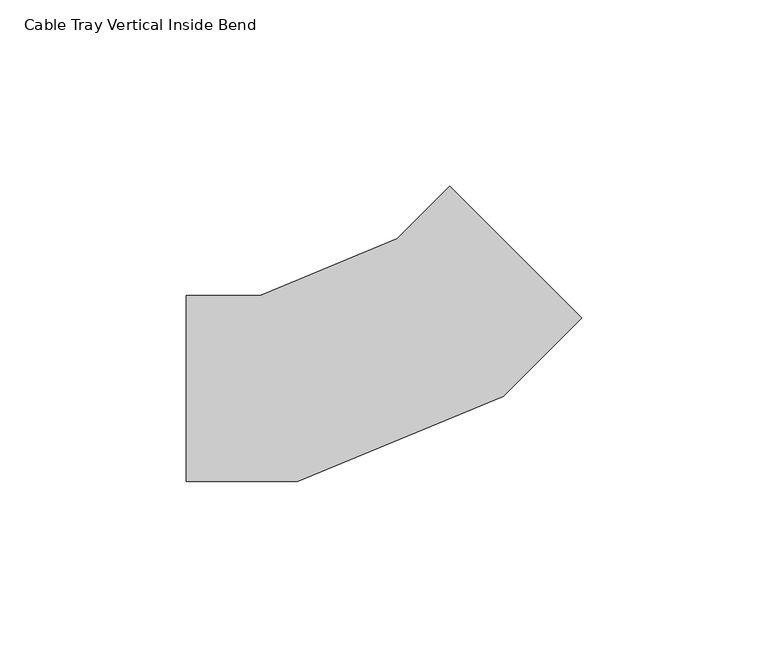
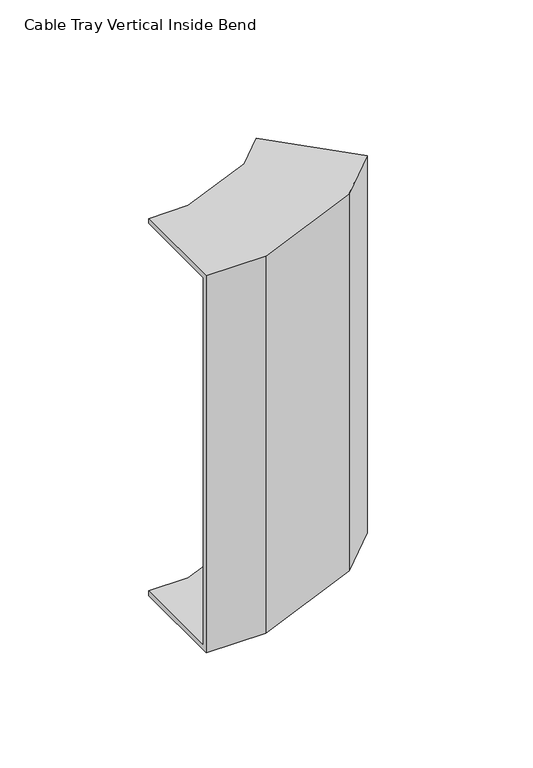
"""IFC4 building model written with IfcOpenShell, lengths in millimetres: cable carrier fitting geometry, Cable Tray Vertical Inside Bend : ELEC_SUB_CT_N2402."""

from ifc_helpers import new_model, si_unit, origin, place, context, project, spatial, faceted_brep, source, transform, mapped, element, save


def cable_tray_vertical_inside_bend_2483429f(model_context):
    return source(origin(), model_context, "Body", "Brep", [
        faceted_brep([(-51.7766953, 25.0, 100.0), (-51.7766953, 25.0, 97.46), (-51.7766953, -22.46, 97.46), (-51.7766953, -22.46, -97.46), (-51.7766953, 25.0, -97.46), (-51.7766953, 25.0, -100.0), (-51.7766953, -25.0, -100.0), (-51.7766953, -25.0, 100.0), (18.9339828, 54.2893219, 100.0), (54.2893219, 18.9339828, 100.0), (54.2893219, 18.9339828, -100.0), (18.9339828, 54.2893219, -100.0), (18.9339828, 54.2893219, -97.46), (52.4932707, 20.730034, -97.46), (52.4932707, 20.730034, 97.46), (18.9339828, 54.2893219, 97.46), (-31.8854586, 25.0, 100.0), (-31.8854586, 25.0, 97.46), (4.8687544, 40.2240935, 97.46), (31.7526849, -0.0105517, 97.46), (-22.4450776, -22.46, 97.46), (-22.4450776, -22.46, -97.46), (31.7526849, -0.0105517, -97.46), (4.8687544, 40.2240935, -97.46), (-31.8854586, 25.0, -97.46), (-31.8854586, 25.0, -100.0), (4.8687544, 40.2240935, -100.0), (33.1914793, -2.1638598, -100.0), (-21.9398402, -25.0, -100.0), (-21.9398402, -25.0, 100.0), (33.1914793, -2.1638598, 100.0), (4.8687544, 40.2240935, 100.0)], [[[0, 1, 2, 3, 4, 5, 6, 7]], [[8, 9, 10, 11, 12, 13, 14, 15]], [[1, 0, 16, 17]], [[2, 1, 17, 18, 15, 14, 19, 20]], [[3, 2, 20, 21]], [[4, 3, 21, 22, 13, 12, 23, 24]], [[5, 4, 24, 25]], [[6, 5, 25, 26, 11, 10, 27, 28]], [[7, 6, 28, 29]], [[0, 7, 29, 30, 9, 8, 31, 16]], [[17, 16, 31, 18]], [[21, 20, 19, 22]], [[25, 24, 23, 26]], [[29, 28, 27, 30]], [[18, 31, 8, 15]], [[22, 19, 14, 13]], [[26, 23, 12, 11]], [[30, 27, 10, 9]]]),
    ])


if __name__ == "__main__":
    model = new_model("IFC4")
    model_context = context("Model", 3, world=origin())
    ifc_project = project(units=[si_unit("LENGTHUNIT", "METRE", prefix="MILLI")], contexts=[model_context])
    site = spatial("IfcSite", under=ifc_project)
    building = spatial("IfcBuilding", under=site)
    placement = place(None, origin())
    cable_tray_vertical_inside_bend_shape = cable_tray_vertical_inside_bend_2483429f(model_context)
    element("IfcCableCarrierFitting", 1, ObjectType="Cable Tray Vertical Inside Bend : ELEC_SUB_CT_N2402", at=placement, inside=building, context=model_context, shape_type="MappedRepresentation", body=[
        mapped(cable_tray_vertical_inside_bend_shape, transform((0.0, 0.0, 0.0), x_axis=(1.0, 0.0, 0.0), y_axis=(0.0, 1.0, 0.0), z_axis=(0.0, 0.0, 1.0))),
    ])
    save(model, "model.ifc")
